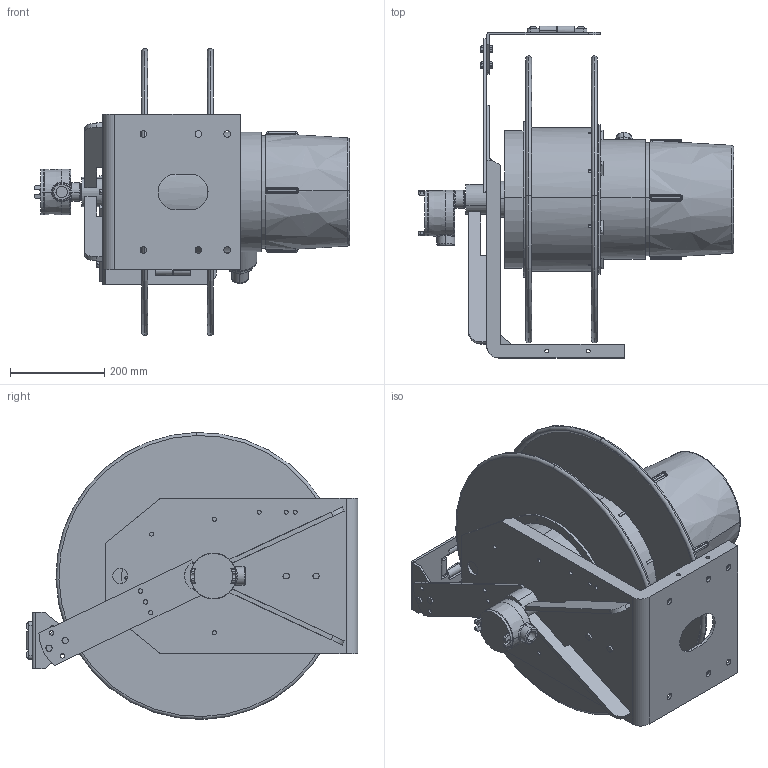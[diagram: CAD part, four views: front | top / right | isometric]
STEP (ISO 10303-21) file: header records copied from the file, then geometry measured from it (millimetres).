
FILE_DESCRIPTION (( 'STEP AP214' ), '1' );
FILE_NAME ('100ft EP Cord Reel.STEP', '2015-05-14T21:45:33', ( '' ), ( '' ), 'SwSTEP 2.0', 'SolidWorks 2015', '' );
FILE_SCHEMA (( 'AUTOMOTIVE_DESIGN' ));
Length unit declared in the file: inch
Products named in the file (11): 100ft EP Cord Reel; .75 x 1.5 nipple; 90 2 hole short; hex bolt_ai_HBOLT 0.3125-24x0.3125x0.3125-N; hex nut_ai_HNUT 0.3125-24-D-N; hex bolt_ai_HBOLT 0.3125-24x0.75x0.75-N; 100ftCR Top plate; 100ftCR Side Arm; 100ftCR Reel; 100ftCR Arm Mount; 100ftCR Body
Assembly tree (13 placements, depth 2):
  100ft EP Cord Reel
    100ftCR Body
    100ftCR Arm Mount
    100ftCR Reel
    100ftCR Side Arm
    100ftCR Top plate
    hex bolt_ai_HBOLT 0.3125-24x0.75x0.75-N  x2
    hex nut_ai_HNUT 0.3125-24-D-N  x2
    hex bolt_ai_HBOLT 0.3125-24x0.3125x0.3125-N  x2
    90 2 hole short
    .75 x 1.5 nipple
Bounding box: 669.29 x 704.83 x 609.42 mm (x, y, z)
Volume: 31085968.7 mm3; surface area: 2565392.8 mm2
Topology: 15 solids, 15 shells, 700 faces, 1807 edges, 1140 vertices
Faces by surface type: cylinder 303, plane 250, cone 70, torus 42, bspline 35
Entity records: 26386 total; most frequent: CARTESIAN_POINT 10102, ORIENTED_EDGE 3326, DIRECTION 3319, EDGE_CURVE 1663, AXIS2_PLACEMENT_3D 1290, VERTEX_POINT 1058, EDGE_LOOP 767, LINE 739
